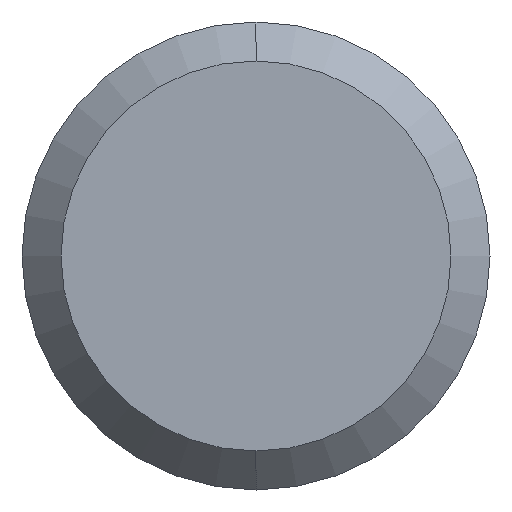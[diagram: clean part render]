
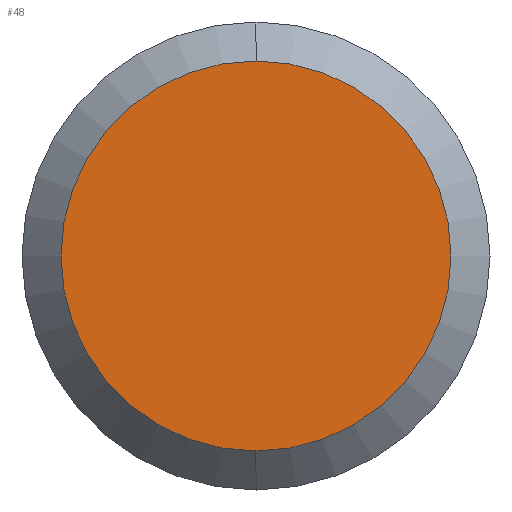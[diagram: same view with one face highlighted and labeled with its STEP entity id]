
A CAD part, left-side view. The second image highlights one B-rep face of the part: STEP entity #48.
In plain terms, the highlighted planar face has unit normal (-1, 0, 0).
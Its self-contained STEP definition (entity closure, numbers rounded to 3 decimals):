
#4 = PLANE ( 'NONE',  #184 ) ;
#31 = ORIENTED_EDGE ( 'NONE', *, *, #388, .T. ) ;
#41 = DIRECTION ( 'NONE',  ( 0., 0., -1. ) ) ;
#48 = ADVANCED_FACE ( 'NONE', ( #264 ), #4, .F. ) ;
#74 = VERTEX_POINT ( 'NONE', #412 ) ;
#81 = EDGE_CURVE ( 'NONE', #385, #74, #408, .T. ) ;
#82 = CARTESIAN_POINT ( 'NONE',  ( 0., 0., -5. ) ) ;
#104 = CARTESIAN_POINT ( 'NONE',  ( 0., 0., 0. ) ) ;
#127 = AXIS2_PLACEMENT_3D ( 'NONE', #434, #432, #424 ) ;
#136 = AXIS2_PLACEMENT_3D ( 'NONE', #195, #301, #312 ) ;
#183 = ORIENTED_EDGE ( 'NONE', *, *, #81, .T. ) ;
#184 = AXIS2_PLACEMENT_3D ( 'NONE', #104, #347, #41 ) ;
#193 = CIRCLE ( 'NONE', #127, 5. ) ;
#195 = CARTESIAN_POINT ( 'NONE',  ( 0., 0., 0. ) ) ;
#264 = FACE_OUTER_BOUND ( 'NONE', #363, .T. ) ;
#301 = DIRECTION ( 'NONE',  ( -1., 0., 0. ) ) ;
#312 = DIRECTION ( 'NONE',  ( 0., 0., 1. ) ) ;
#347 = DIRECTION ( 'NONE',  ( 1., 0., 0. ) ) ;
#363 = EDGE_LOOP ( 'NONE', ( #31, #183 ) ) ;
#385 = VERTEX_POINT ( 'NONE', #82 ) ;
#388 = EDGE_CURVE ( 'NONE', #74, #385, #193, .T. ) ;
#408 = CIRCLE ( 'NONE', #136, 5. ) ;
#412 = CARTESIAN_POINT ( 'NONE',  ( 0., 0., 5. ) ) ;
#424 = DIRECTION ( 'NONE',  ( 0., 0., 1. ) ) ;
#432 = DIRECTION ( 'NONE',  ( -1., 0., 0. ) ) ;
#434 = CARTESIAN_POINT ( 'NONE',  ( 0., 0., 0. ) ) ;
